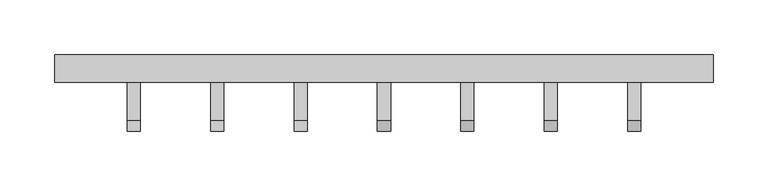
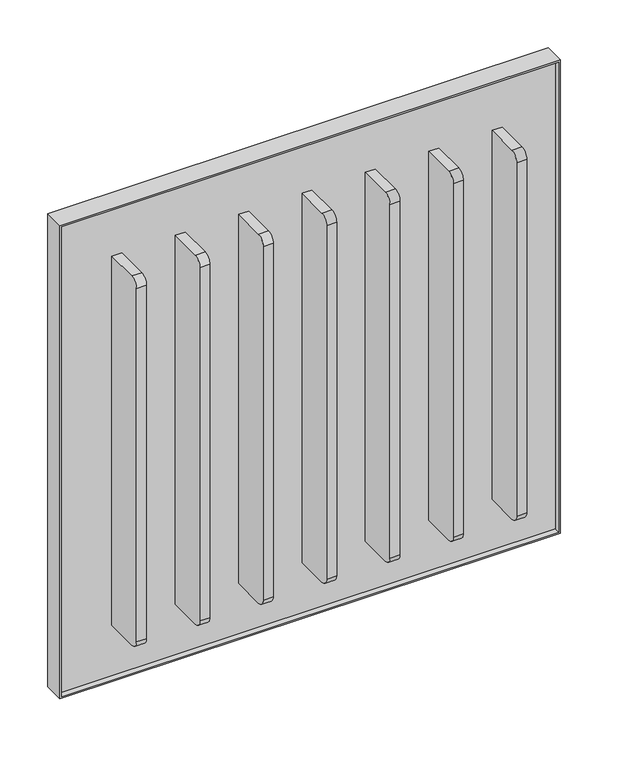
"""IFC4 building model written with IfcOpenShell, lengths in millimetres: proxy geometry, Frame_Cascade 15.3dm."""

from ifc_helpers import new_model, si_unit, point, frame, frame_2d, origin, place, context, project, spatial, polyline, circle_curve, trimmed, segment, composite_curve, outline, extrude, source, transform, mapped, element, save


def generic_models_101371f0(model_context):
    return source(origin(), model_context, "Body", "SweptSolid", [
        extrude(outline(composite_curve([segment(polyline([(72.7568681, 1229.8576084), (114.2568681, 1229.8576084), (114.2568681, 758.8576084), (72.7568681, 758.8576084)]), True, "CONTINUOUS"), segment(trimmed(circle_curve(frame_2d((72.7568681, 768.8576084)), 10.0), [point((72.7568681, 758.8576084))], [point((62.7568681, 768.8576084))], False, "CARTESIAN"), True, "CONTINUOUS"), segment(polyline([(62.7568681, 768.8576084), (62.7568681, 1219.8576084)]), True, "CONTINUOUS"), segment(trimmed(circle_curve(frame_2d((72.7568681, 1219.8576084)), 10.0), [point((62.7568681, 1219.8576084))], [point((72.7568681, 1229.8576084))], False, "CARTESIAN"), True, "CONTINUOUS")], self_intersect=False)), frame((65.2120786, 0.0, 0.0), z_axis=(1.0, 0.0, 0.0), x_axis=(0.0, 1.0, 0.0)), (0.0, 0.0, 1.0), 12.0),
        extrude(outline(composite_curve([segment(polyline([(72.7568681, 1229.8576084), (114.2568681, 1229.8576084), (114.2568681, 758.8576084), (72.7568681, 758.8576084)]), True, "CONTINUOUS"), segment(trimmed(circle_curve(frame_2d((72.7568681, 768.8576084)), 10.0), [point((72.7568681, 758.8576084))], [point((62.7568681, 768.8576084))], False, "CARTESIAN"), True, "CONTINUOUS"), segment(polyline([(62.7568681, 768.8576084), (62.7568681, 1219.8576084)]), True, "CONTINUOUS"), segment(trimmed(circle_curve(frame_2d((72.7568681, 1219.8576084)), 10.0), [point((62.7568681, 1219.8576084))], [point((72.7568681, 1229.8576084))], False, "CARTESIAN"), True, "CONTINUOUS")], self_intersect=False)), frame((141.7120786, 0.0, 0.0), z_axis=(1.0, 0.0, 0.0), x_axis=(0.0, 1.0, 0.0)), (0.0, 0.0, 1.0), 12.0),
        extrude(outline(composite_curve([segment(polyline([(72.7568681, 1229.8576084), (114.2568681, 1229.8576084), (114.2568681, 758.8576084), (72.7568681, 758.8576084)]), True, "CONTINUOUS"), segment(trimmed(circle_curve(frame_2d((72.7568681, 768.8576084)), 10.0), [point((72.7568681, 758.8576084))], [point((62.7568681, 768.8576084))], False, "CARTESIAN"), True, "CONTINUOUS"), segment(polyline([(62.7568681, 768.8576084), (62.7568681, 1219.8576084)]), True, "CONTINUOUS"), segment(trimmed(circle_curve(frame_2d((72.7568681, 1219.8576084)), 10.0), [point((62.7568681, 1219.8576084))], [point((72.7568681, 1229.8576084))], False, "CARTESIAN"), True, "CONTINUOUS")], self_intersect=False)), frame((218.2120786, 0.0, 0.0), z_axis=(1.0, 0.0, 0.0), x_axis=(0.0, 1.0, 0.0)), (0.0, 0.0, 1.0), 12.0),
        extrude(outline(composite_curve([segment(trimmed(circle_curve(frame_2d((72.7568681, 768.8576084)), 10.0), [point((72.7568681, 758.8576084))], [point((62.7568681, 768.8576084))], False, "CARTESIAN"), True, "CONTINUOUS"), segment(polyline([(62.7568681, 768.8576084), (62.7568681, 1219.8576084)]), True, "CONTINUOUS"), segment(trimmed(circle_curve(frame_2d((72.7568681, 1219.8576084)), 10.0), [point((62.7568681, 1219.8576084))], [point((72.7568681, 1229.8576084))], False, "CARTESIAN"), True, "CONTINUOUS"), segment(polyline([(72.7568681, 1229.8576084), (114.2568681, 1229.8576084), (114.2568681, 758.8576084), (72.7568681, 758.8576084)]), True, "CONTINUOUS")], self_intersect=False)), frame((294.7120786, 0.0, 0.0), z_axis=(1.0, 0.0, 0.0), x_axis=(0.0, 1.0, 0.0)), (0.0, 0.0, 1.0), 12.0),
        extrude(outline(composite_curve([segment(trimmed(circle_curve(frame_2d((72.7568681, 768.8576084)), 10.0), [point((72.7568681, 758.8576084))], [point((62.7568681, 768.8576084))], False, "CARTESIAN"), True, "CONTINUOUS"), segment(polyline([(62.7568681, 768.8576084), (62.7568681, 1219.8576084)]), True, "CONTINUOUS"), segment(trimmed(circle_curve(frame_2d((72.7568681, 1219.8576084)), 10.0), [point((62.7568681, 1219.8576084))], [point((72.7568681, 1229.8576084))], False, "CARTESIAN"), True, "CONTINUOUS"), segment(polyline([(72.7568681, 1229.8576084), (114.2568681, 1229.8576084), (114.2568681, 758.8576084), (72.7568681, 758.8576084)]), True, "CONTINUOUS")], self_intersect=False)), frame((371.2120786, 0.0, 0.0), z_axis=(1.0, 0.0, 0.0), x_axis=(0.0, 1.0, 0.0)), (0.0, 0.0, 1.0), 12.0),
        extrude(outline(composite_curve([segment(trimmed(circle_curve(frame_2d((72.7568681, 768.8576084)), 10.0), [point((72.7568681, 758.8576084))], [point((62.7568681, 768.8576084))], False, "CARTESIAN"), True, "CONTINUOUS"), segment(polyline([(62.7568681, 768.8576084), (62.7568681, 1219.8576084)]), True, "CONTINUOUS"), segment(trimmed(circle_curve(frame_2d((72.7568681, 1219.8576084)), 10.0), [point((62.7568681, 1219.8576084))], [point((72.7568681, 1229.8576084))], False, "CARTESIAN"), True, "CONTINUOUS"), segment(polyline([(72.7568681, 1229.8576084), (114.2568681, 1229.8576084), (114.2568681, 758.8576084), (72.7568681, 758.8576084)]), True, "CONTINUOUS")], self_intersect=False)), frame((447.7120786, 0.0, 0.0), z_axis=(1.0, 0.0, 0.0), x_axis=(0.0, 1.0, 0.0)), (0.0, 0.0, 1.0), 12.0),
        extrude(outline(composite_curve([segment(trimmed(circle_curve(frame_2d((72.7568681, 768.8576084)), 10.0), [point((72.7568681, 758.8576084))], [point((62.7568681, 768.8576084))], False, "CARTESIAN"), True, "CONTINUOUS"), segment(polyline([(62.7568681, 768.8576084), (62.7568681, 1219.8576084)]), True, "CONTINUOUS"), segment(trimmed(circle_curve(frame_2d((72.7568681, 1219.8576084)), 10.0), [point((62.7568681, 1219.8576084))], [point((72.7568681, 1229.8576084))], False, "CARTESIAN"), True, "CONTINUOUS"), segment(polyline([(72.7568681, 1229.8576084), (114.2568681, 1229.8576084), (114.2568681, 758.8576084), (72.7568681, 758.8576084)]), True, "CONTINUOUS")], self_intersect=False)), frame((524.2120786, 0.0, 0.0), z_axis=(1.0, 0.0, 0.0), x_axis=(0.0, 1.0, 0.0)), (0.0, 0.0, 1.0), 12.0),
        extrude(outline(polyline([(692.3576084, 602.7120786), (1296.3576084, 602.7120786), (1296.3576084, -1.2879214), (692.3576084, -1.2879214), (692.3576084, 602.7120786)]), holes=[polyline([(694.3576084, 600.7120786), (694.3576084, 0.7120786), (1294.3576084, 0.7120786), (1294.3576084, 600.7120786), (694.3576084, 600.7120786)])]), frame((0.0, 107.5568681, 0.0), z_axis=(0.0, 1.0, 0.0), x_axis=(0.0, 0.0, 1.0)), (0.0, 0.0, 1.0), 25.4),
        extrude(outline(polyline([(0.7120786, 126.2568681), (600.7120786, 126.2568681), (600.7120786, 114.2568681), (0.7120786, 114.2568681), (0.7120786, 126.2568681)])), frame((0.0, 0.0, 694.3576084), z_axis=(0.0, 0.0, 1.0), x_axis=(1.0, 0.0, 0.0)), (0.0, 0.0, 1.0), 600.0),
    ])


if __name__ == "__main__":
    model = new_model("IFC4")
    model_context = context("Model", 3, world=origin())
    ifc_project = project(units=[si_unit("LENGTHUNIT", "METRE", prefix="MILLI")], contexts=[model_context])
    site = spatial("IfcSite", under=ifc_project)
    building = spatial("IfcBuilding", under=site)
    placement = place(None, origin())
    generic_models_shape = generic_models_101371f0(model_context)
    element("IfcBuildingElementProxy", 1, Name="Frame_Cascade 15.3dm", ObjectType="Frame_Cascade 15.3dm", at=placement, inside=building, context=model_context, shape_type="MappedRepresentation", body=[
        mapped(generic_models_shape, transform((0.0, 0.0, 0.0), x_axis=(1.0, 0.0, 0.0), y_axis=(0.0, 1.0, 0.0), z_axis=(0.0, 0.0, 1.0))),
    ])
    save(model, "model.ifc")
